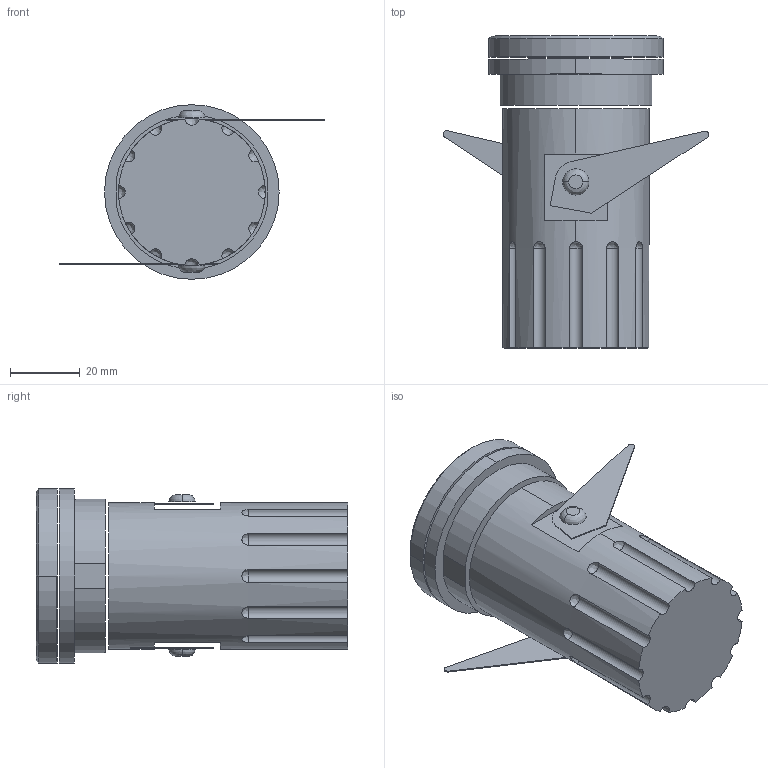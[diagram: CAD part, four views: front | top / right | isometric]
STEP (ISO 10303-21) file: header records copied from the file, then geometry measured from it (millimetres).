
FILE_DESCRIPTION((''),'2;1');
FILE_NAME('TRIMLESS_TONDO1_SW0001','2025-07-30T12:07:56',('cad5'),(''),'CREO PARAMETRIC BY PTC INC, 2025010','CREO PARAMETRIC BY PTC INC, 2025010','');
FILE_SCHEMA(('CONFIG_CONTROL_DESIGN'));
Length unit declared in the file: millimetre
Products named in the file (1): TRIMLESS_TONDO1_SW0001
Bounding box: 76.01 x 89.31 x 50 mm (x, y, z)
Surface area: 21326.3 mm2 (no closed solid volume)
Topology: 0 solids, 10 shells, 56 faces, 200 edges, 142 vertices
Faces by surface type: cylinder 20, plane 18, bspline 16, cone 2
Entity records: 2980 total; most frequent: CARTESIAN_POINT 1262, DIRECTION 364, ORIENTED_EDGE 336, EDGE_CURVE 200, AXIS2_PLACEMENT_3D 148, VERTEX_POINT 142, CIRCLE 108, VECTOR 68
